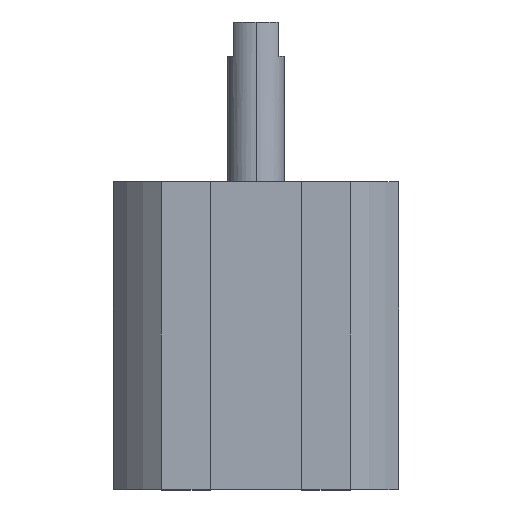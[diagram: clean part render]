
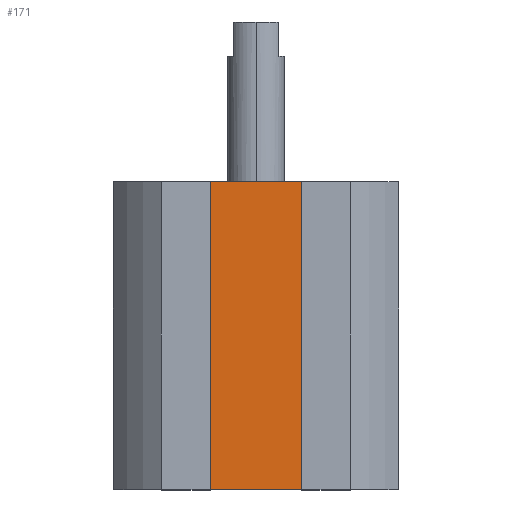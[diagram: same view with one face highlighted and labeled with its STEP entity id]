
A CAD part, top view. The second image highlights one B-rep face of the part: STEP entity #171.
In plain terms, the highlighted planar face has unit normal (0, 0, 1).
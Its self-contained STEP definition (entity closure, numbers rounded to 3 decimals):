
#58 = EDGE_CURVE ( 'NONE', #147, #1544, #1346, .T. ) ;
#147 = VERTEX_POINT ( 'NONE', #1490 ) ;
#167 = ORIENTED_EDGE ( 'NONE', *, *, #58, .F. ) ;
#171 = ADVANCED_FACE ( 'NONE', ( #1397 ), #1328, .T. ) ;
#203 = CARTESIAN_POINT ( 'NONE',  ( 4., 0., 7.8 ) ) ;
#291 = DIRECTION ( 'NONE',  ( 1., 0., 0. ) ) ;
#303 = CARTESIAN_POINT ( 'NONE',  ( 0., -27., 7.8 ) ) ;
#319 = LINE ( 'NONE', #1395, #1686 ) ;
#393 = DIRECTION ( 'NONE',  ( 0., 1., 0. ) ) ;
#546 = ORIENTED_EDGE ( 'NONE', *, *, #2084, .T. ) ;
#598 = EDGE_LOOP ( 'NONE', ( #1653, #167, #546, #1209 ) ) ;
#680 = VERTEX_POINT ( 'NONE', #203 ) ;
#685 = DIRECTION ( 'NONE',  ( 0., 0., 1. ) ) ;
#766 = EDGE_CURVE ( 'NONE', #1544, #680, #1848, .T. ) ;
#785 = VECTOR ( 'NONE', #2101, 1000. ) ;
#1116 = LINE ( 'NONE', #1473, #2058 ) ;
#1209 = ORIENTED_EDGE ( 'NONE', *, *, #1846, .T. ) ;
#1255 = AXIS2_PLACEMENT_3D ( 'NONE', #303, #685, #1880 ) ;
#1328 = PLANE ( 'NONE',  #1255 ) ;
#1346 = LINE ( 'NONE', #2017, #1779 ) ;
#1395 = CARTESIAN_POINT ( 'NONE',  ( 4., -27., 7.8 ) ) ;
#1397 = FACE_OUTER_BOUND ( 'NONE', #598, .T. ) ;
#1469 = CARTESIAN_POINT ( 'NONE',  ( -4., 0., 7.8 ) ) ;
#1473 = CARTESIAN_POINT ( 'NONE',  ( 0., -27., 7.8 ) ) ;
#1482 = DIRECTION ( 'NONE',  ( 0., 1., 0. ) ) ;
#1490 = CARTESIAN_POINT ( 'NONE',  ( -4., -27., 7.8 ) ) ;
#1544 = VERTEX_POINT ( 'NONE', #1469 ) ;
#1625 = VERTEX_POINT ( 'NONE', #1862 ) ;
#1653 = ORIENTED_EDGE ( 'NONE', *, *, #766, .F. ) ;
#1686 = VECTOR ( 'NONE', #393, 1000. ) ;
#1759 = CARTESIAN_POINT ( 'NONE',  ( 0., 0., 7.8 ) ) ;
#1779 = VECTOR ( 'NONE', #1482, 1000. ) ;
#1846 = EDGE_CURVE ( 'NONE', #1625, #680, #319, .T. ) ;
#1848 = LINE ( 'NONE', #1759, #785 ) ;
#1862 = CARTESIAN_POINT ( 'NONE',  ( 4., -27., 7.8 ) ) ;
#1880 = DIRECTION ( 'NONE',  ( 1., 0., 0. ) ) ;
#2017 = CARTESIAN_POINT ( 'NONE',  ( -4., -27., 7.8 ) ) ;
#2058 = VECTOR ( 'NONE', #291, 1000. ) ;
#2084 = EDGE_CURVE ( 'NONE', #147, #1625, #1116, .T. ) ;
#2101 = DIRECTION ( 'NONE',  ( 1., 0., 0. ) ) ;
